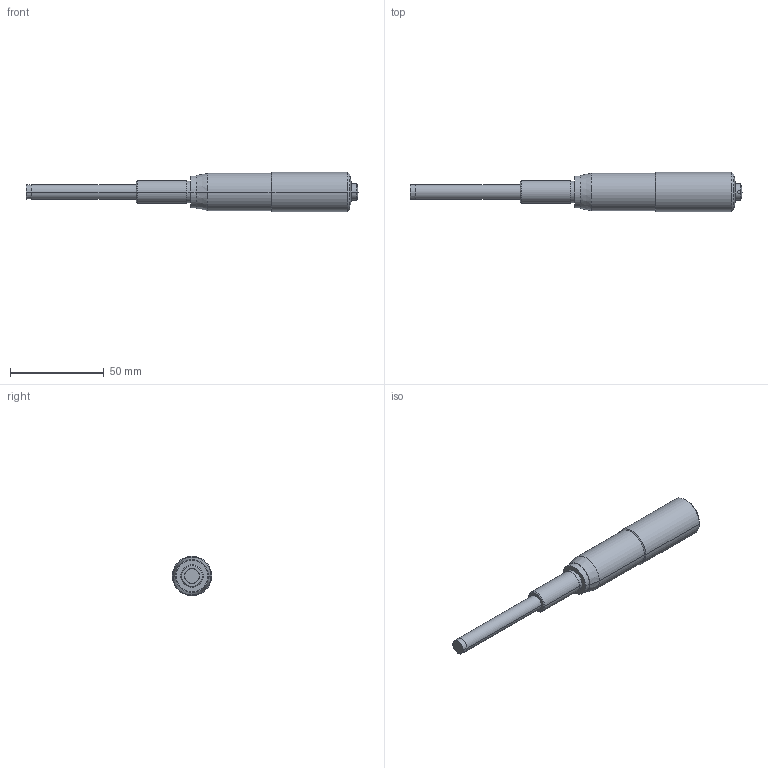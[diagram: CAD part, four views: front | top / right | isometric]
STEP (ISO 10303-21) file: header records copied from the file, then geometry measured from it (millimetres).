
FILE_DESCRIPTION(('Creo Elements/Direct Modeling STEP Export'),'2;1');
FILE_NAME('151-260_MHH1-50T.stp','2014-02-06T19:25:20',(''),(''),'Creo Elements/Direct Modeling STEP processor for AP214 (Solid Model)','Creo Elements/Direct Modeling 18.1B 29-Sep-2012 (C) Parametric Technology GmbH','');
FILE_SCHEMA(('AUTOMOTIVE_DESIGN { 1 0 10303 214 1 1 1 1 }'));
Length unit declared in the file: millimetre
Products named in the file (1): 151-260_MHH1-50T
Bounding box: 177.5 x 21 x 21 mm (x, y, z)
Volume: 34129 mm3; surface area: 8665.6 mm2
Topology: 1 solids, 1 shells, 37 faces, 74 edges, 43 vertices
Faces by surface type: cylinder 16, cone 12, plane 7, sphere 2
Entity records: 1143 total; most frequent: CARTESIAN_POINT 404, DIRECTION 150, ORIENTED_EDGE 144, EDGE_CURVE 72, AXIS2_PLACEMENT_3D 61, VERTEX_POINT 43, EDGE_LOOP 43, FACE_OUTER_BOUND 37
